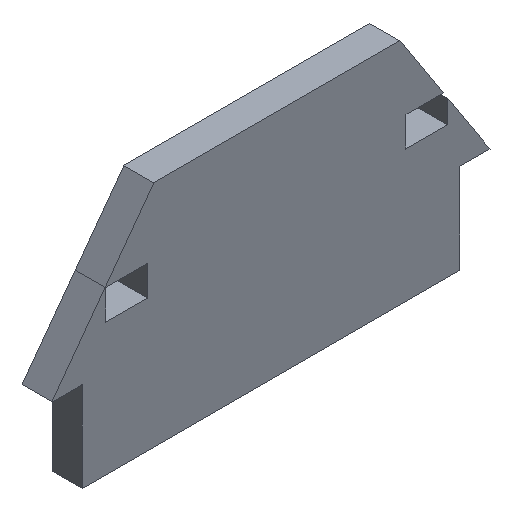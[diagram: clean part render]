
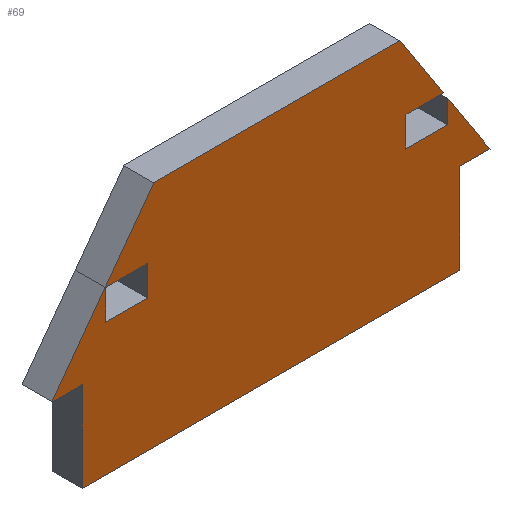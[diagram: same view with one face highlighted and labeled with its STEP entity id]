
A CAD part, isometric view. The second image highlights one B-rep face of the part: STEP entity #69.
In plain terms, the highlighted planar face has unit normal (0, -1, 0).
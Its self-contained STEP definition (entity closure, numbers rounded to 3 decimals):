
#69=ADVANCED_FACE('',(#109,#110),#111,.F.);
#109=FACE_OUTER_BOUND('',#150,.T.);
#110=FACE_BOUND('',#151,.T.);
#111=PLANE('',#152);
#150=EDGE_LOOP('',(#293,#294,#295,#296,#297,#298,#299,#300,#301,#302,#303,#304,#305));
#151=EDGE_LOOP('',(#306,#307,#308,#309));
#152=AXIS2_PLACEMENT_3D('',#310,#311,#312);
#293=ORIENTED_EDGE('',*,*,#326,.T.);
#294=ORIENTED_EDGE('',*,*,#355,.F.);
#295=ORIENTED_EDGE('',*,*,#357,.F.);
#296=ORIENTED_EDGE('',*,*,#359,.F.);
#297=ORIENTED_EDGE('',*,*,#361,.F.);
#298=ORIENTED_EDGE('',*,*,#363,.F.);
#299=ORIENTED_EDGE('',*,*,#364,.F.);
#300=ORIENTED_EDGE('',*,*,#351,.F.);
#301=ORIENTED_EDGE('',*,*,#353,.F.);
#302=ORIENTED_EDGE('',*,*,#340,.F.);
#303=ORIENTED_EDGE('',*,*,#322,.T.);
#304=ORIENTED_EDGE('',*,*,#319,.T.);
#305=ORIENTED_EDGE('',*,*,#316,.T.);
#306=ORIENTED_EDGE('',*,*,#347,.T.);
#307=ORIENTED_EDGE('',*,*,#345,.T.);
#308=ORIENTED_EDGE('',*,*,#343,.T.);
#309=ORIENTED_EDGE('',*,*,#349,.T.);
#310=CARTESIAN_POINT('',(36.683,-10.933,-16.923));
#311=DIRECTION('',(0.0,1.0,0.));
#312=DIRECTION('',(1.0,0.0,0.0));
#316=EDGE_CURVE('',#370,#368,#371,.T.);
#319=EDGE_CURVE('',#375,#370,#376,.T.);
#322=EDGE_CURVE('',#380,#375,#381,.T.);
#326=EDGE_CURVE('',#368,#385,#387,.T.);
#340=EDGE_CURVE('',#380,#413,#414,.T.);
#343=EDGE_CURVE('',#418,#416,#419,.T.);
#345=EDGE_CURVE('',#421,#418,#422,.T.);
#347=EDGE_CURVE('',#424,#421,#425,.T.);
#349=EDGE_CURVE('',#416,#424,#427,.T.);
#351=EDGE_CURVE('',#428,#430,#431,.T.);
#353=EDGE_CURVE('',#413,#428,#433,.T.);
#355=EDGE_CURVE('',#434,#385,#436,.T.);
#357=EDGE_CURVE('',#437,#434,#439,.T.);
#359=EDGE_CURVE('',#440,#437,#442,.T.);
#361=EDGE_CURVE('',#443,#440,#445,.T.);
#363=EDGE_CURVE('',#446,#443,#448,.T.);
#364=EDGE_CURVE('',#430,#446,#449,.T.);
#368=VERTEX_POINT('',#454);
#370=VERTEX_POINT('',#457);
#371=LINE('',#458,#459);
#375=VERTEX_POINT('',#465);
#376=LINE('',#466,#467);
#380=VERTEX_POINT('',#473);
#381=LINE('',#474,#475);
#385=VERTEX_POINT('',#481);
#387=LINE('',#484,#485);
#413=VERTEX_POINT('',#524);
#414=LINE('',#525,#526);
#416=VERTEX_POINT('',#529);
#418=VERTEX_POINT('',#532);
#419=LINE('',#533,#534);
#421=VERTEX_POINT('',#537);
#422=LINE('',#538,#539);
#424=VERTEX_POINT('',#542);
#425=LINE('',#543,#544);
#427=LINE('',#547,#548);
#428=VERTEX_POINT('',#549);
#430=VERTEX_POINT('',#552);
#431=LINE('',#553,#554);
#433=LINE('',#557,#558);
#434=VERTEX_POINT('',#559);
#436=LINE('',#562,#563);
#437=VERTEX_POINT('',#564);
#439=LINE('',#567,#568);
#440=VERTEX_POINT('',#569);
#442=LINE('',#572,#573);
#443=VERTEX_POINT('',#574);
#445=LINE('',#577,#578);
#446=VERTEX_POINT('',#579);
#448=LINE('',#582,#583);
#449=LINE('',#584,#585);
#454=CARTESIAN_POINT('',(59.,-10.933,-7.063));
#457=CARTESIAN_POINT('',(59.,-10.933,-12.063));
#458=CARTESIAN_POINT('',(59.,-10.933,-11.993));
#459=VECTOR('',#588,1.0);
#465=CARTESIAN_POINT('',(66.,-10.933,-12.063));
#466=CARTESIAN_POINT('',(47.842,-10.933,-12.063));
#467=VECTOR('',#591,1.0);
#473=CARTESIAN_POINT('',(66.,-10.933,-8.271));
#474=CARTESIAN_POINT('',(66.,-10.933,-14.493));
#475=VECTOR('',#594,1.0);
#481=CARTESIAN_POINT('',(65.217,-10.933,-7.063));
#484=CARTESIAN_POINT('',(51.342,-10.933,-7.063));
#485=VECTOR('',#598,1.0);
#524=CARTESIAN_POINT('',(73.,-10.933,-19.067));
#525=CARTESIAN_POINT('',(58.,-10.933,4.067));
#526=VECTOR('',#612,1.0);
#529=CARTESIAN_POINT('',(16.,-10.933,-12.063));
#532=CARTESIAN_POINT('',(16.,-10.933,-7.063));
#533=CARTESIAN_POINT('',(16.,-10.933,-14.493));
#534=VECTOR('',#615,1.0);
#537=CARTESIAN_POINT('',(9.,-10.933,-7.063));
#538=CARTESIAN_POINT('',(26.342,-10.933,-7.063));
#539=VECTOR('',#617,1.0);
#542=CARTESIAN_POINT('',(9.,-10.933,-12.063));
#543=CARTESIAN_POINT('',(9.,-10.933,-11.993));
#544=VECTOR('',#619,1.0);
#547=CARTESIAN_POINT('',(22.842,-10.933,-12.063));
#548=VECTOR('',#621,1.0);
#549=CARTESIAN_POINT('',(68.,-10.933,-19.067));
#552=CARTESIAN_POINT('',(68.,-10.933,-34.067));
#553=CARTESIAN_POINT('',(68.,-10.933,-19.067));
#554=VECTOR('',#623,1.0);
#557=CARTESIAN_POINT('',(73.,-10.933,-19.067));
#558=VECTOR('',#625,1.0);
#559=CARTESIAN_POINT('',(58.,-10.933,4.067));
#562=CARTESIAN_POINT('',(58.,-10.933,4.067));
#563=VECTOR('',#627,1.0);
#564=CARTESIAN_POINT('',(17.,-10.933,4.067));
#567=CARTESIAN_POINT('',(17.,-10.933,4.067));
#568=VECTOR('',#629,1.0);
#569=CARTESIAN_POINT('',(0.,-10.933,-19.067));
#572=CARTESIAN_POINT('',(0.,-10.933,-19.067));
#573=VECTOR('',#631,1.0);
#574=CARTESIAN_POINT('',(5.,-10.933,-19.067));
#577=CARTESIAN_POINT('',(5.,-10.933,-19.067));
#578=VECTOR('',#633,1.0);
#579=CARTESIAN_POINT('',(5.,-10.933,-34.067));
#582=CARTESIAN_POINT('',(5.,-10.933,-34.067));
#583=VECTOR('',#635,1.0);
#584=CARTESIAN_POINT('',(68.,-10.933,-34.067));
#585=VECTOR('',#636,1.0);
#588=DIRECTION('',(0.0,0.,1.0));
#591=DIRECTION('',(-1.0,0.0,0.0));
#594=DIRECTION('',(0.0,0.,-1.0));
#598=DIRECTION('',(1.0,0.0,0.0));
#612=DIRECTION('',(0.544,0.,-0.839));
#615=DIRECTION('',(0.0,0.,-1.0));
#617=DIRECTION('',(1.0,0.0,0.0));
#619=DIRECTION('',(0.0,0.,1.0));
#621=DIRECTION('',(-1.0,0.0,-0.0));
#623=DIRECTION('',(0.0,0.,-1.0));
#625=DIRECTION('',(-1.0,0.,0.));
#627=DIRECTION('',(0.544,0.,-0.839));
#629=DIRECTION('',(1.0,0.0,0.0));
#631=DIRECTION('',(0.592,0.,0.806));
#633=DIRECTION('',(-1.0,0.0,-0.0));
#635=DIRECTION('',(0.,0.,1.0));
#636=DIRECTION('',(-1.0,0.0,-0.0));
